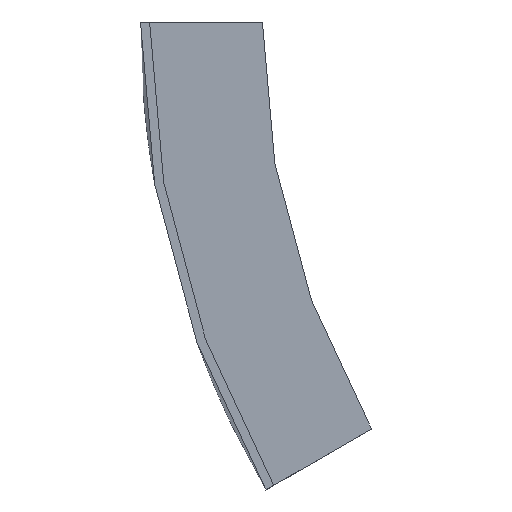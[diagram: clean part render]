
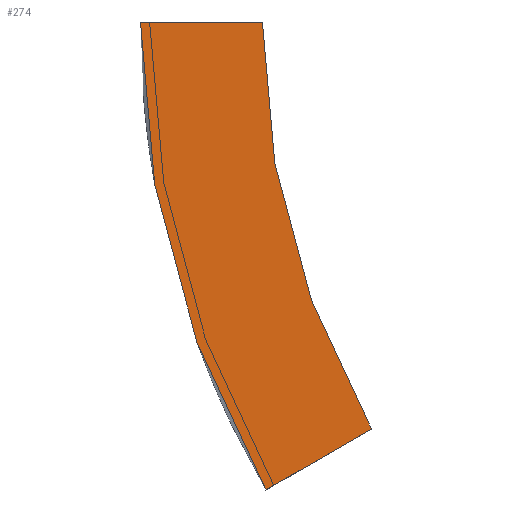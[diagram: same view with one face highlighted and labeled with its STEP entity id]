
A CAD part, left-side view. The second image highlights one B-rep face of the part: STEP entity #274.
In plain terms, the highlighted planar face has unit normal (-1, 0, 0).
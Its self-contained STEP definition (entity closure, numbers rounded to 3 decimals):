
#10 = AXIS2_PLACEMENT_3D ( 'NONE', #511, #502, #453 ) ;
#12 = LINE ( 'NONE', #45, #245 ) ;
#25 = CARTESIAN_POINT ( 'NONE',  ( -253.5, -153.5, 0. ) ) ;
#40 = CIRCLE ( 'NONE', #10, 153.5 ) ;
#44 = ORIENTED_EDGE ( 'NONE', *, *, #109, .F. ) ;
#45 = CARTESIAN_POINT ( 'NONE',  ( -253.5, -20., 0. ) ) ;
#46 = PLANE ( 'NONE',  #355 ) ;
#47 = ORIENTED_EDGE ( 'NONE', *, *, #159, .F. ) ;
#61 = VECTOR ( 'NONE', #598, 1000. ) ;
#87 = ORIENTED_EDGE ( 'NONE', *, *, #377, .F. ) ;
#89 = AXIS2_PLACEMENT_3D ( 'NONE', #25, #601, #447 ) ;
#109 = EDGE_CURVE ( 'NONE', #460, #267, #339, .T. ) ;
#159 = EDGE_CURVE ( 'NONE', #361, #384, #40, .T. ) ;
#229 = CARTESIAN_POINT ( 'NONE',  ( -253.5, -20., 0. ) ) ;
#232 = DIRECTION ( 'NONE',  ( 0., 0., 1. ) ) ;
#245 = VECTOR ( 'NONE', #513, 1000. ) ;
#267 = VERTEX_POINT ( 'NONE', #322 ) ;
#274 = ADVANCED_FACE ( 'NONE', ( #401 ), #46, .T. ) ;
#320 = LINE ( 'NONE', #402, #61 ) ;
#322 = CARTESIAN_POINT ( 'NONE',  ( -253.5, -37.886, -66.75 ) ) ;
#325 = CARTESIAN_POINT ( 'NONE',  ( -253.5, 0., 0. ) ) ;
#339 = CIRCLE ( 'NONE', #89, 133.5 ) ;
#344 = ORIENTED_EDGE ( 'NONE', *, *, #488, .F. ) ;
#355 = AXIS2_PLACEMENT_3D ( 'NONE', #596, #461, #232 ) ;
#361 = VERTEX_POINT ( 'NONE', #418 ) ;
#377 = EDGE_CURVE ( 'NONE', #384, #460, #12, .T. ) ;
#384 = VERTEX_POINT ( 'NONE', #325 ) ;
#401 = FACE_OUTER_BOUND ( 'NONE', #432, .T. ) ;
#402 = CARTESIAN_POINT ( 'NONE',  ( -253.5, -37.886, -66.75 ) ) ;
#418 = CARTESIAN_POINT ( 'NONE',  ( -253.5, -20.565, -76.75 ) ) ;
#432 = EDGE_LOOP ( 'NONE', ( #47, #344, #44, #87 ) ) ;
#447 = DIRECTION ( 'NONE',  ( 0., 0., -1. ) ) ;
#453 = DIRECTION ( 'NONE',  ( 0., 0., 1. ) ) ;
#460 = VERTEX_POINT ( 'NONE', #229 ) ;
#461 = DIRECTION ( 'NONE',  ( -1., 0., 0. ) ) ;
#488 = EDGE_CURVE ( 'NONE', #267, #361, #320, .T. ) ;
#502 = DIRECTION ( 'NONE',  ( 1., 0., 0. ) ) ;
#511 = CARTESIAN_POINT ( 'NONE',  ( -253.5, -153.5, 0. ) ) ;
#513 = DIRECTION ( 'NONE',  ( 0., -1., 0. ) ) ;
#596 = CARTESIAN_POINT ( 'NONE',  ( -253.5, -153.5, 0. ) ) ;
#598 = DIRECTION ( 'NONE',  ( 0., 0.866, -0.5 ) ) ;
#601 = DIRECTION ( 'NONE',  ( -1., 0., 0. ) ) ;
